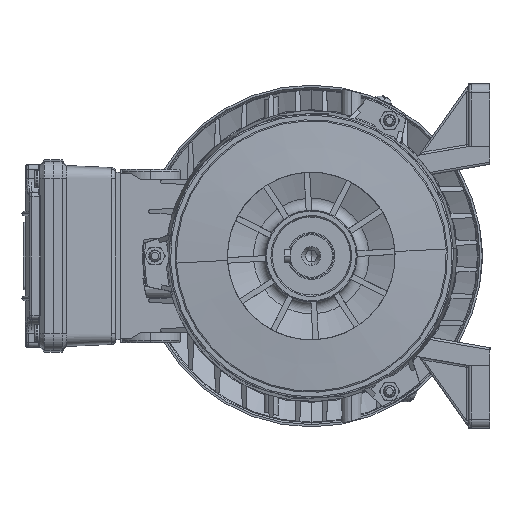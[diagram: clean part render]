
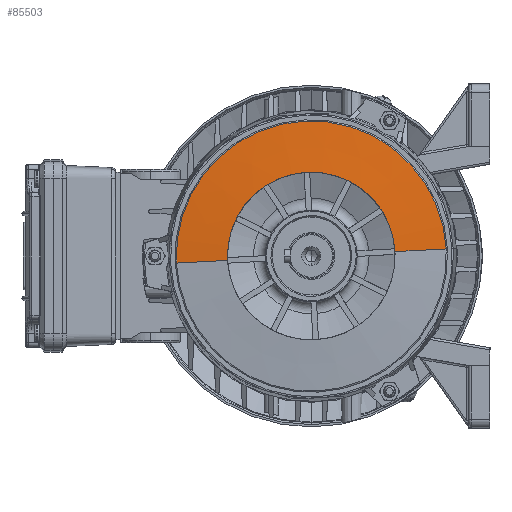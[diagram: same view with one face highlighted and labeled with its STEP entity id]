
A CAD part, left-side view. The second image highlights one B-rep face of the part: STEP entity #85503.
In plain terms, the highlighted conical face has half-angle 85 degrees and reference radius 60.452 mm.
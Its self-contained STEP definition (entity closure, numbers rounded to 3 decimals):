
#3298 = CARTESIAN_POINT ( 'NONE',  ( 0., 2.008, -60.452 ) ) ;
#10387 = CARTESIAN_POINT ( 'NONE',  ( 0., 2.008, 0. ) ) ;
#11092 = DIRECTION ( 'NONE',  ( 0., 0.087, -0.996 ) ) ;
#13614 = CIRCLE ( 'NONE', #68468, 37.5 ) ;
#20402 = CARTESIAN_POINT ( 'NONE',  ( 0., 2.008, 60.452 ) ) ;
#22945 = VERTEX_POINT ( 'NONE', #73740 ) ;
#25994 = DIRECTION ( 'NONE',  ( 0., 0., 1. ) ) ;
#27402 = VERTEX_POINT ( 'NONE', #42255 ) ;
#29433 = AXIS2_PLACEMENT_3D ( 'NONE', #32210, #86892, #40090 ) ;
#31641 = LINE ( 'NONE', #3298, #70805 ) ;
#32210 = CARTESIAN_POINT ( 'NONE',  ( 0., 2.008, 0. ) ) ;
#32644 = DIRECTION ( 'NONE',  ( 0., 1., 0. ) ) ;
#33832 = DIRECTION ( 'NONE',  ( 0., 1., 0. ) ) ;
#39806 = FACE_OUTER_BOUND ( 'NONE', #96387, .T. ) ;
#40090 = DIRECTION ( 'NONE',  ( 0., 0., 1. ) ) ;
#42255 = CARTESIAN_POINT ( 'NONE',  ( 0., 0., -37.5 ) ) ;
#43908 = VERTEX_POINT ( 'NONE', #98964 ) ;
#46423 = AXIS2_PLACEMENT_3D ( 'NONE', #10387, #33832, #25994 ) ;
#48028 = CIRCLE ( 'NONE', #29433, 60.452 ) ;
#51388 = EDGE_CURVE ( 'NONE', #27402, #22945, #13614, .T. ) ;
#52616 = ORIENTED_EDGE ( 'NONE', *, *, #59093, .F. ) ;
#59093 = EDGE_CURVE ( 'NONE', #27402, #43908, #31641, .T. ) ;
#59768 = EDGE_CURVE ( 'NONE', #22945, #72173, #86569, .T. ) ;
#65811 = VECTOR ( 'NONE', #75094, 1000. ) ;
#66940 = ORIENTED_EDGE ( 'NONE', *, *, #59768, .T. ) ;
#68468 = AXIS2_PLACEMENT_3D ( 'NONE', #79505, #32644, #87314 ) ;
#68638 = EDGE_CURVE ( 'NONE', #43908, #72173, #48028, .T. ) ;
#69700 = CARTESIAN_POINT ( 'NONE',  ( 0., 2.008, 60.452 ) ) ;
#70805 = VECTOR ( 'NONE', #11092, 1000. ) ;
#72173 = VERTEX_POINT ( 'NONE', #69700 ) ;
#73740 = CARTESIAN_POINT ( 'NONE',  ( 0., 0., 37.5 ) ) ;
#75094 = DIRECTION ( 'NONE',  ( 0., 0.087, 0.996 ) ) ;
#78241 = ORIENTED_EDGE ( 'NONE', *, *, #68638, .F. ) ;
#79505 = CARTESIAN_POINT ( 'NONE',  ( 0., 0., 0. ) ) ;
#80337 = ORIENTED_EDGE ( 'NONE', *, *, #51388, .T. ) ;
#85503 = ADVANCED_FACE ( 'NONE', ( #39806 ), #97218, .T. ) ;
#86569 = LINE ( 'NONE', #20402, #65811 ) ;
#86892 = DIRECTION ( 'NONE',  ( 0., 1., 0. ) ) ;
#87314 = DIRECTION ( 'NONE',  ( 0., 0., 1. ) ) ;
#96387 = EDGE_LOOP ( 'NONE', ( #52616, #80337, #66940, #78241 ) ) ;
#97218 = CONICAL_SURFACE ( 'NONE', #46423, 60.452, 1.484 ) ;
#98964 = CARTESIAN_POINT ( 'NONE',  ( 0., 2.008, -60.452 ) ) ;
